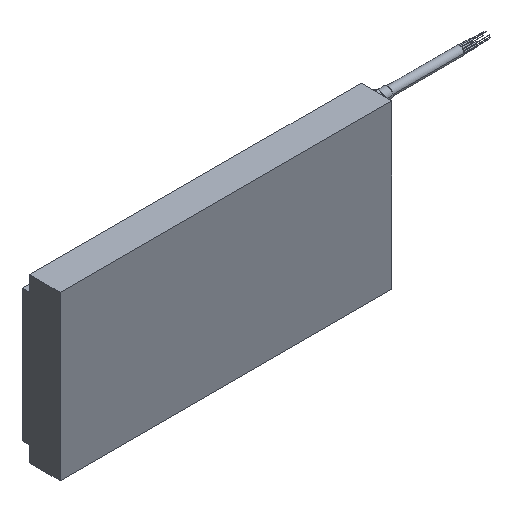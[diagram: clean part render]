
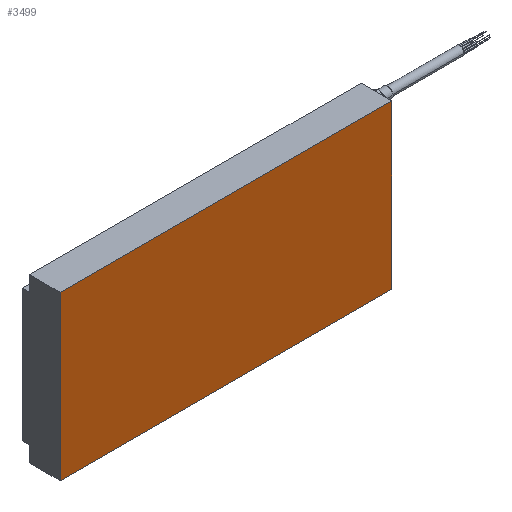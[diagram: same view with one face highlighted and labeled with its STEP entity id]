
A CAD part, isometric view. The second image highlights one B-rep face of the part: STEP entity #3499.
In plain terms, the highlighted planar face has unit normal (0, -1, 0).
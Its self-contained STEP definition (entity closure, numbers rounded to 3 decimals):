
#29=DIRECTION('',(0.,0.,-1.));
#30=VECTOR('',#29,185.);
#31=CARTESIAN_POINT('',(-188.1,0.,92.5));
#32=LINE('',#31,#30);
#33=DIRECTION('',(1.,0.,0.));
#34=VECTOR('',#33,376.2);
#35=CARTESIAN_POINT('',(-188.1,0.,-92.5));
#36=LINE('',#35,#34);
#37=DIRECTION('',(1.,0.,0.));
#38=VECTOR('',#37,376.2);
#39=CARTESIAN_POINT('',(-188.1,0.,92.5));
#40=LINE('',#39,#38);
#1793=DIRECTION('',(0.,0.,-1.));
#1794=VECTOR('',#1793,185.);
#1795=CARTESIAN_POINT('',(188.1,0.,92.5));
#1796=LINE('',#1795,#1794);
#2645=CARTESIAN_POINT('',(-188.1,0.,-92.5));
#2647=VERTEX_POINT('',#2645);
#2659=CARTESIAN_POINT('',(-188.1,0.,92.5));
#2660=VERTEX_POINT('',#2659);
#2661=CARTESIAN_POINT('',(188.1,0.,-92.5));
#2663=VERTEX_POINT('',#2661);
#2675=CARTESIAN_POINT('',(188.1,0.,92.5));
#2676=VERTEX_POINT('',#2675);
#3486=CARTESIAN_POINT('',(-188.1,0.,92.5));
#3487=DIRECTION('',(0.,-1.,0.));
#3488=DIRECTION('',(0.,0.,-1.));
#3489=AXIS2_PLACEMENT_3D('',#3486,#3487,#3488);
#3490=PLANE('',#3489);
#3491=ORIENTED_EDGE('',*,*,#3466,.F.);
#3493=ORIENTED_EDGE('',*,*,#3492,.T.);
#3495=ORIENTED_EDGE('',*,*,#3494,.T.);
#3496=ORIENTED_EDGE('',*,*,#3477,.F.);
#3497=EDGE_LOOP('',(#3491,#3493,#3495,#3496));
#3498=FACE_OUTER_BOUND('',#3497,.F.);
#3499=ADVANCED_FACE('',(#3498),#3490,.T.);
#3466=EDGE_CURVE('',#2660,#2647,#32,.T.);
#3477=EDGE_CURVE('',#2647,#2663,#36,.T.);
#3492=EDGE_CURVE('',#2660,#2676,#40,.T.);
#3494=EDGE_CURVE('',#2676,#2663,#1796,.T.);
